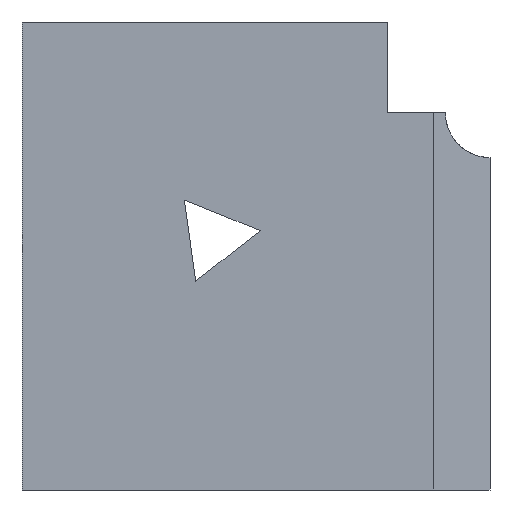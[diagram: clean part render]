
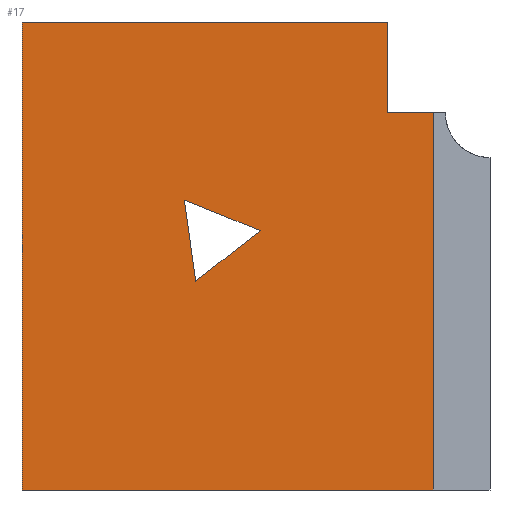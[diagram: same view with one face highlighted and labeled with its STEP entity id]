
A CAD part, left-side view. The second image highlights one B-rep face of the part: STEP entity #17.
In plain terms, the highlighted planar face has unit normal (-1, 0, 0).
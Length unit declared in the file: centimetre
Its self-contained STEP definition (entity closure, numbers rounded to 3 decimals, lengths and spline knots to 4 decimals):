
#10 = VECTOR ( 'NONE', #992, 100. ) ;
#16 = LINE ( 'NONE', #385, #451 ) ;
#17 = ADVANCED_FACE ( 'NONE', ( #1198, #546 ), #909, .F. ) ;
#23 = VERTEX_POINT ( 'NONE', #103 ) ;
#37 = CARTESIAN_POINT ( 'NONE',  ( 0., 218.8987, 805.7708 ) ) ;
#40 = ORIENTED_EDGE ( 'NONE', *, *, #1182, .T. ) ;
#48 = LINE ( 'NONE', #678, #614 ) ;
#53 = CARTESIAN_POINT ( 'NONE',  ( 0., 1000., 1000. ) ) ;
#83 = VECTOR ( 'NONE', #1065, 100. ) ;
#103 = CARTESIAN_POINT ( 'NONE',  ( 0., 218.8987, 805.7708 ) ) ;
#122 = LINE ( 'NONE', #567, #744 ) ;
#127 = DIRECTION ( 'NONE',  ( 0., 0.787, -0.616 ) ) ;
#140 = EDGE_CURVE ( 'NONE', #687, #1044, #147, .T. ) ;
#147 = LINE ( 'NONE', #53, #83 ) ;
#208 = EDGE_LOOP ( 'NONE', ( #249, #751, #828, #558, #1144, #725 ) ) ;
#224 = EDGE_CURVE ( 'NONE', #687, #360, #626, .T. ) ;
#246 = AXIS2_PLACEMENT_3D ( 'NONE', #1122, #555, #1131 ) ;
#249 = ORIENTED_EDGE ( 'NONE', *, *, #516, .T. ) ;
#290 = CARTESIAN_POINT ( 'NONE',  ( 0., 628.6145, 446.3524 ) ) ;
#333 = EDGE_CURVE ( 'NONE', #557, #925, #122, .T. ) ;
#359 = EDGE_CURVE ( 'NONE', #23, #1044, #742, .T. ) ;
#360 = VERTEX_POINT ( 'NONE', #1151 ) ;
#385 = CARTESIAN_POINT ( 'NONE',  ( 0., 0., 805.7708 ) ) ;
#397 = VECTOR ( 'NONE', #587, 100. ) ;
#444 = VECTOR ( 'NONE', #978, 100. ) ;
#451 = VECTOR ( 'NONE', #1126, 100. ) ;
#463 = EDGE_LOOP ( 'NONE', ( #40, #625, #1158 ) ) ;
#516 = EDGE_CURVE ( 'NONE', #646, #837, #855, .T. ) ;
#546 = FACE_OUTER_BOUND ( 'NONE', #208, .T. ) ;
#555 = DIRECTION ( 'NONE',  ( 1., 0., 0. ) ) ;
#557 = VERTEX_POINT ( 'NONE', #851 ) ;
#558 = ORIENTED_EDGE ( 'NONE', *, *, #140, .F. ) ;
#567 = CARTESIAN_POINT ( 'NONE',  ( 0., 628.6145, 446.3524 ) ) ;
#587 = DIRECTION ( 'NONE',  ( 0., 0., 1. ) ) ;
#614 = VECTOR ( 'NONE', #822, 100. ) ;
#625 = ORIENTED_EDGE ( 'NONE', *, *, #333, .T. ) ;
#626 = LINE ( 'NONE', #710, #10 ) ;
#646 = VERTEX_POINT ( 'NONE', #840 ) ;
#650 = DIRECTION ( 'NONE',  ( 0., 0., 1. ) ) ;
#678 = CARTESIAN_POINT ( 'NONE',  ( 0., 1000., 0. ) ) ;
#687 = VERTEX_POINT ( 'NONE', #817 ) ;
#692 = CARTESIAN_POINT ( 'NONE',  ( 0., 653.1087, 619.5453 ) ) ;
#710 = CARTESIAN_POINT ( 'NONE',  ( 0., 1000., 1000. ) ) ;
#716 = DIRECTION ( 'NONE',  ( 0., 0.14, 0.99 ) ) ;
#725 = ORIENTED_EDGE ( 'NONE', *, *, #1058, .T. ) ;
#742 = LINE ( 'NONE', #37, #948 ) ;
#744 = VECTOR ( 'NONE', #127, 100. ) ;
#751 = ORIENTED_EDGE ( 'NONE', *, *, #754, .T. ) ;
#754 = EDGE_CURVE ( 'NONE', #837, #23, #16, .T. ) ;
#757 = CARTESIAN_POINT ( 'NONE',  ( 0., 121.6709, 1000. ) ) ;
#779 = LINE ( 'NONE', #797, #444 ) ;
#797 = CARTESIAN_POINT ( 'NONE',  ( 0., 490.8721, 554.1614 ) ) ;
#817 = CARTESIAN_POINT ( 'NONE',  ( 0., 1000., 1000. ) ) ;
#822 = DIRECTION ( 'NONE',  ( 0., -1., 0. ) ) ;
#828 = ORIENTED_EDGE ( 'NONE', *, *, #359, .T. ) ;
#837 = VERTEX_POINT ( 'NONE', #896 ) ;
#840 = CARTESIAN_POINT ( 'NONE',  ( 0., 121.6709, 0. ) ) ;
#841 = CARTESIAN_POINT ( 'NONE',  ( 0., 218.8987, 1000. ) ) ;
#848 = VECTOR ( 'NONE', #716, 100. ) ;
#851 = CARTESIAN_POINT ( 'NONE',  ( 0., 490.8721, 554.1614 ) ) ;
#855 = LINE ( 'NONE', #757, #397 ) ;
#896 = CARTESIAN_POINT ( 'NONE',  ( 0., 121.6709, 805.7708 ) ) ;
#908 = EDGE_CURVE ( 'NONE', #925, #1108, #1013, .T. ) ;
#909 = PLANE ( 'NONE',  #246 ) ;
#925 = VERTEX_POINT ( 'NONE', #290 ) ;
#948 = VECTOR ( 'NONE', #650, 100. ) ;
#978 = DIRECTION ( 'NONE',  ( 0., -0.928, -0.374 ) ) ;
#985 = CARTESIAN_POINT ( 'NONE',  ( 0., 653.1087, 619.5453 ) ) ;
#992 = DIRECTION ( 'NONE',  ( 0., 0., -1. ) ) ;
#1013 = LINE ( 'NONE', #692, #848 ) ;
#1044 = VERTEX_POINT ( 'NONE', #841 ) ;
#1058 = EDGE_CURVE ( 'NONE', #360, #646, #48, .T. ) ;
#1065 = DIRECTION ( 'NONE',  ( 0., -1., 0. ) ) ;
#1108 = VERTEX_POINT ( 'NONE', #985 ) ;
#1122 = CARTESIAN_POINT ( 'NONE',  ( 0., 1000., 1000. ) ) ;
#1126 = DIRECTION ( 'NONE',  ( 0., 1., 0. ) ) ;
#1131 = DIRECTION ( 'NONE',  ( 0., 0., -1. ) ) ;
#1144 = ORIENTED_EDGE ( 'NONE', *, *, #224, .T. ) ;
#1151 = CARTESIAN_POINT ( 'NONE',  ( 0., 1000., 0. ) ) ;
#1158 = ORIENTED_EDGE ( 'NONE', *, *, #908, .T. ) ;
#1182 = EDGE_CURVE ( 'NONE', #1108, #557, #779, .T. ) ;
#1198 = FACE_BOUND ( 'NONE', #463, .T. ) ;
